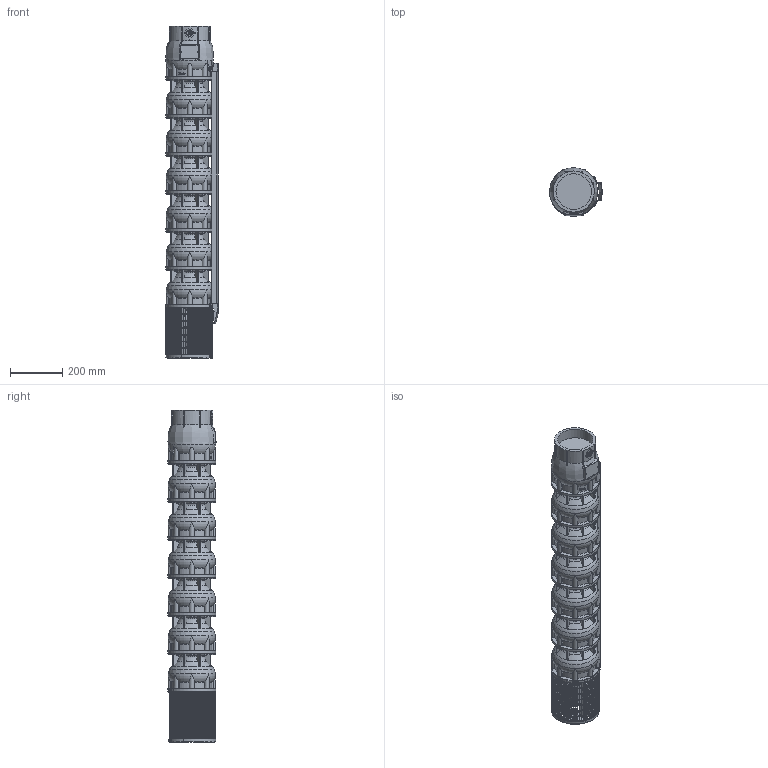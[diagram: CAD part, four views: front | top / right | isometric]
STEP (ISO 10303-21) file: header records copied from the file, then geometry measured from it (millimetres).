
FILE_DESCRIPTION(/* description */ ('Unknown'),/* implementation_level */ '2;1');
FILE_NAME(/* name */ 'VSI134-6_WR_M6-50_DLE',/* time_stamp */ '2023-09-14T13:16:26+02:00',/* author */ ('Unknown'),/* organization */ ('Unknown'),/* preprocessor_version */ 'ST-DEVELOPER v18.102',/* originating_system */ 'Solid Edge',/* authorisation */ 'Unknown');
FILE_SCHEMA (('AUTOMOTIVE_DESIGN {1 0 10303 214 3 1 1}'));
Products named in the file (11): VSI134-6_WR_M6-50_DLE; VSI134_testata; VSI134_diffusore; VSI134_supporto_8×6; VSI134_filtro_A; VSI134_filtro_B; VSI134_terminale_top_copricavo_basso; VSI134_terminale_bottom_copricavo_basso; LOW 134-6; M5X8_UNI7687; VSI134_giunto_8×6
Assembly tree (24 placements, depth 2):
  VSI134-6_WR_M6-50_DLE
    VSI134_testata
    VSI134_diffusore  x6
    VSI134_supporto_8×6
    VSI134_filtro_A
    VSI134_filtro_B
    VSI134_terminale_top_copricavo_basso
    VSI134_terminale_bottom_copricavo_basso
    LOW 134-6
    M5X8_UNI7687  x10
    VSI134_giunto_8×6
Bounding box: 201.57 x 183.52 x 1267 mm (x, y, z)
Volume: 21956373.5 mm3; surface area: 1747109.8 mm2
Topology: 63 solids, 65 shells, 3474 faces, 9808 edges, 6541 vertices
Faces by surface type: plane 2607, cylinder 456, torus 312, cone 56, bspline 31, sphere 12
Full cylindrical faces by diameter (mm): 2.4 x2, 3 x2, 4.2 x16, 5 x10, 5.5 x8, 15 x4, 26 x1, 44 x1, 59 x1, 74 x1, 76.2 x1, 98 x1, 135.472 x1, 157 x1, 182 x7
Entity records: 83741 total; most frequent: CARTESIAN_POINT 18044, ORIENTED_EDGE 13738, DIRECTION 13170, EDGE_CURVE 6869, VERTEX_POINT 4627, AXIS2_PLACEMENT_3D 4492, LINE 4186, VECTOR 4186
